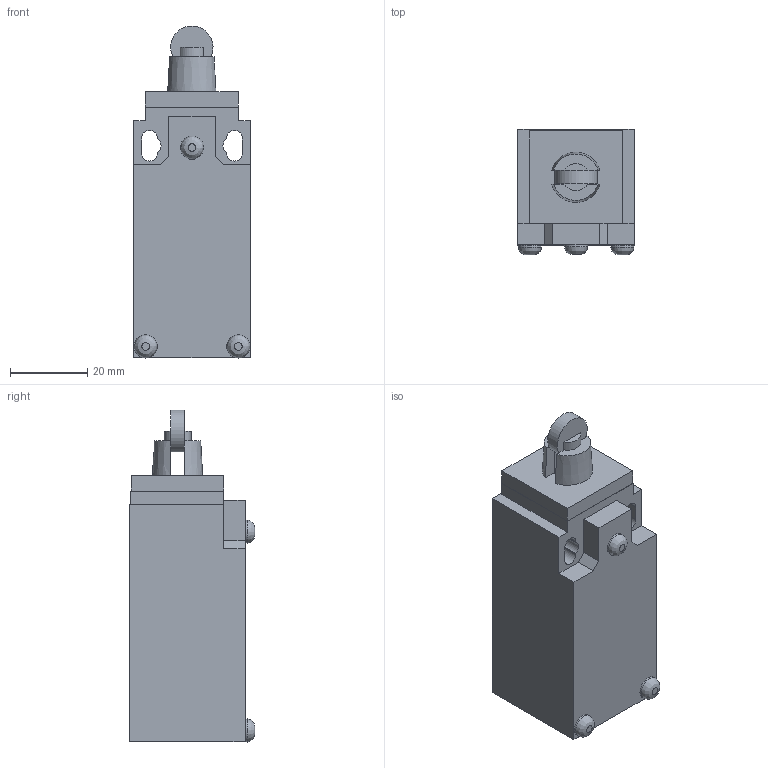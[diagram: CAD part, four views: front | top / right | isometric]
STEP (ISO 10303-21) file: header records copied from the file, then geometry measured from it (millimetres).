
FILE_DESCRIPTION((''),'2;1');
FILE_NAME('C:\Workarea\Disegni\Comepi\Catalogo\Stp\Finecorsa\AM1-F12.iam.step','2011-07-22T16:14:28',(''),(''),'Autodesk Inventor 2012','Autodesk Inventor 2012','');
FILE_SCHEMA(('AUTOMOTIVE_DESIGN { 1 0 10303 214 1 1 1 1 }'));
Length unit declared in the file: millimetre
Products named in the file (5): AM1-F12; AM1; T12; T12_1; T12_2
Assembly tree (4 placements, depth 3):
  AM1-F12
    AM1
    T12
      T12_1
      T12_2
Bounding box: 30.3 x 32.5 x 86 mm (x, y, z)
Volume: 54237.8 mm3; surface area: 14163.9 mm2
Topology: 3 solids, 3 shells, 71 faces, 176 edges, 113 vertices
Faces by surface type: plane 52, cylinder 14, bspline 3, cone 2
Full cylindrical faces by diameter (mm): 6 x3, 7 x1, 11 x1, 20.4 x1
Entity records: 2322 total; most frequent: CARTESIAN_POINT 494, DIRECTION 354, ORIENTED_EDGE 328, EDGE_CURVE 164, VECTOR 120, LINE 120, AXIS2_PLACEMENT_3D 117, VERTEX_POINT 110
